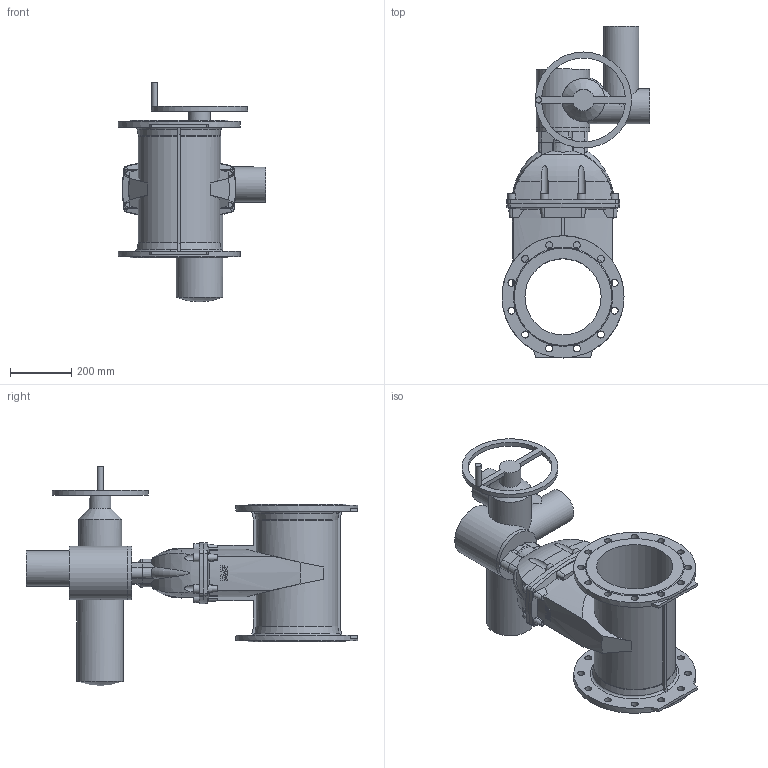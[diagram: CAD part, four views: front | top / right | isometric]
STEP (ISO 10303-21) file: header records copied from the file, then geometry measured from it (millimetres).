
FILE_DESCRIPTION (( 'STEP AP203' ), '1' );
FILE_NAME ('O_15_72_DN250_X0X_SA14.2_AA0.step', '2017-03-20T13:06:11', ( 'Windows User' ), ( 'AVK' ), 'SwSTEP 2.0', 'SolidWorks 2012', '' );
FILE_SCHEMA (( 'CONFIG_CONTROL_DESIGN' ));
Length unit declared in the file: inch
Products named in the file (1): O_15_72_DN250_X0X_SA14.2_AA0
Bounding box: 485 x 1088 x 721 mm (x, y, z)
Volume: 41398254.8 mm3; surface area: 2044111.1 mm2
Topology: 1 solids, 1 shells, 323 faces, 926 edges, 612 vertices
Faces by surface type: plane 111, cylinder 76, cone 65, bspline 54, torus 16, sphere 1
Full cylindrical faces by diameter (mm): 20 x1, 23 x24, 70.266 x1, 115 x2, 140.708 x1, 153 x1, 175 x2, 250 x1, 315 x1, 400 x2
Entity records: 13897 total; most frequent: CARTESIAN_POINT 6235, ORIENTED_EDGE 1700, DIRECTION 1340, EDGE_CURVE 850, VERTEX_POINT 580, AXIS2_PLACEMENT_3D 563, EDGE_LOOP 428, FACE_OUTER_BOUND 359
